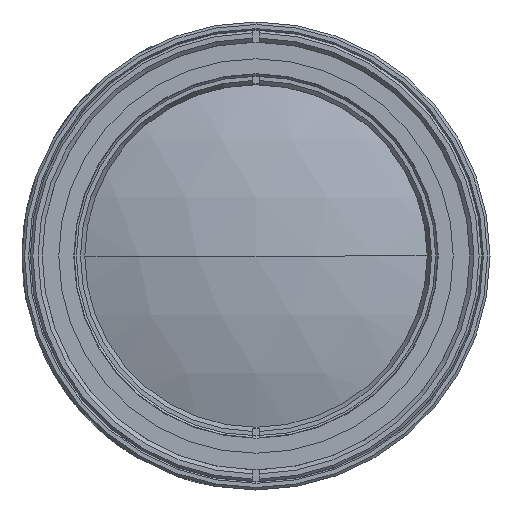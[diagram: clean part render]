
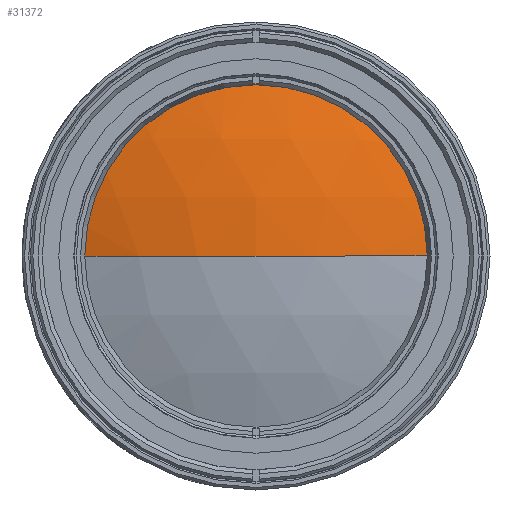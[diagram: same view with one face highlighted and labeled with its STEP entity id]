
A CAD part, left-side view. The second image highlights one B-rep face of the part: STEP entity #31372.
In plain terms, the highlighted spherical face has radius 63.636 mm.
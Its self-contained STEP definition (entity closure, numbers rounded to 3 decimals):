
#302 = DIRECTION ( 'NONE',  ( 0., 1., 0. ) ) ;
#688 = EDGE_CURVE ( 'NONE', #17649, #46518, #36039, .T. ) ;
#3756 = AXIS2_PLACEMENT_3D ( 'NONE', #49299, #76157, #31275 ) ;
#7035 = EDGE_CURVE ( 'NONE', #46518, #25151, #43306, .T. ) ;
#10377 = DIRECTION ( 'NONE',  ( -1., 0., 0. ) ) ;
#12861 = DIRECTION ( 'NONE',  ( 1., 0., 0. ) ) ;
#17649 = VERTEX_POINT ( 'NONE', #34641 ) ;
#23424 = CIRCLE ( 'NONE', #52834, 63.636 ) ;
#23934 = ORIENTED_EDGE ( 'NONE', *, *, #39024, .T. ) ;
#25151 = VERTEX_POINT ( 'NONE', #39842 ) ;
#31275 = DIRECTION ( 'NONE',  ( 0., 1., 0. ) ) ;
#31372 = ADVANCED_FACE ( 'NONE', ( #82456 ), #68635, .T. ) ;
#34641 = CARTESIAN_POINT ( 'NONE',  ( 1.5, 0., 0. ) ) ;
#35923 = CARTESIAN_POINT ( 'NONE',  ( 5.011, 20.847, 0. ) ) ;
#36039 = CIRCLE ( 'NONE', #81631, 63.636 ) ;
#39024 = EDGE_CURVE ( 'NONE', #17649, #25151, #23424, .T. ) ;
#39842 = CARTESIAN_POINT ( 'NONE',  ( 5.011, -20.847, 0. ) ) ;
#43306 = CIRCLE ( 'NONE', #66088, 20.847 ) ;
#46518 = VERTEX_POINT ( 'NONE', #35923 ) ;
#49299 = CARTESIAN_POINT ( 'NONE',  ( 65.136, 0., 0. ) ) ;
#49601 = EDGE_LOOP ( 'NONE', ( #67701, #23934, #49841 ) ) ;
#49841 = ORIENTED_EDGE ( 'NONE', *, *, #7035, .F. ) ;
#52834 = AXIS2_PLACEMENT_3D ( 'NONE', #72159, #52838, #63475 ) ;
#52838 = DIRECTION ( 'NONE',  ( 0., 0., 1. ) ) ;
#61456 = CARTESIAN_POINT ( 'NONE',  ( 65.136, 0., 0. ) ) ;
#63475 = DIRECTION ( 'NONE',  ( 0., -1., 0. ) ) ;
#66088 = AXIS2_PLACEMENT_3D ( 'NONE', #70253, #12861, #302 ) ;
#66954 = DIRECTION ( 'NONE',  ( 0., 0., -1. ) ) ;
#67701 = ORIENTED_EDGE ( 'NONE', *, *, #688, .F. ) ;
#68635 = SPHERICAL_SURFACE ( 'NONE', #3756, 63.636 ) ;
#70253 = CARTESIAN_POINT ( 'NONE',  ( 5.011, 0., 0. ) ) ;
#72159 = CARTESIAN_POINT ( 'NONE',  ( 65.136, 0., 0. ) ) ;
#76157 = DIRECTION ( 'NONE',  ( 0., 0., 1. ) ) ;
#81631 = AXIS2_PLACEMENT_3D ( 'NONE', #61456, #66954, #10377 ) ;
#82456 = FACE_OUTER_BOUND ( 'NONE', #49601, .T. ) ;
